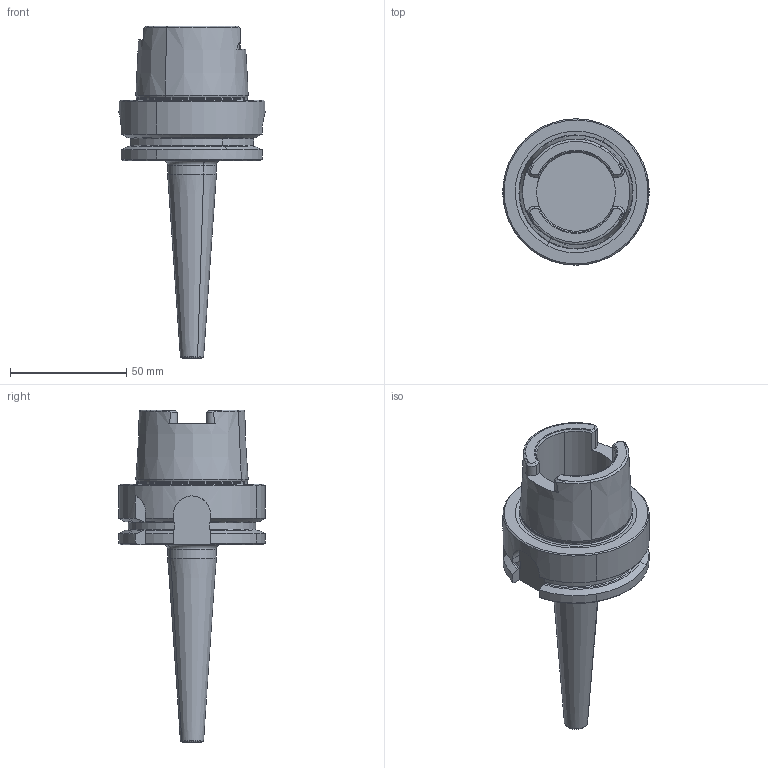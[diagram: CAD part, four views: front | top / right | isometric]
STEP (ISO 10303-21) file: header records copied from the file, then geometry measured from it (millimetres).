
FILE_DESCRIPTION(('CATIA V5 STEP','CAx-IF Rec.Pracs.--- Model Styling and Organization---1.2---2011-12-15'),'2;1');
FILE_NAME('\\nas01\drv1\utils\eitdev\rte\eit\transmagicconvert\db\out\4504445 L.stp','2014-03-23T05:36:38+00:00',('none'),('none'),'CATIA Version 5 Release 21 SP 5 (IN-10)','CATIA V5 STEP AP214','none');
FILE_SCHEMA(('AUTOMOTIVE_DESIGN { 1 0 10303 214 1 1 1 1 }'));
Length unit declared in the file: millimetre
Products named in the file (1): 60792298_0 Holder-Tool HSK A 63 SRK 3X85
Bounding box: 63 x 63 x 143 mm (x, y, z)
Volume: 108482.1 mm3; surface area: 24783.8 mm2
Topology: 1 solids, 1 shells, 126 faces, 327 edges, 206 vertices
Faces by surface type: plane 41, cone 35, cylinder 26, torus 24
Entity records: 3866 total; most frequent: CARTESIAN_POINT 1144, ORIENTED_EDGE 654, DIRECTION 398, EDGE_CURVE 327, AXIS2_PLACEMENT_3D 210, VERTEX_POINT 206, CIRCLE 139, EDGE_LOOP 129
